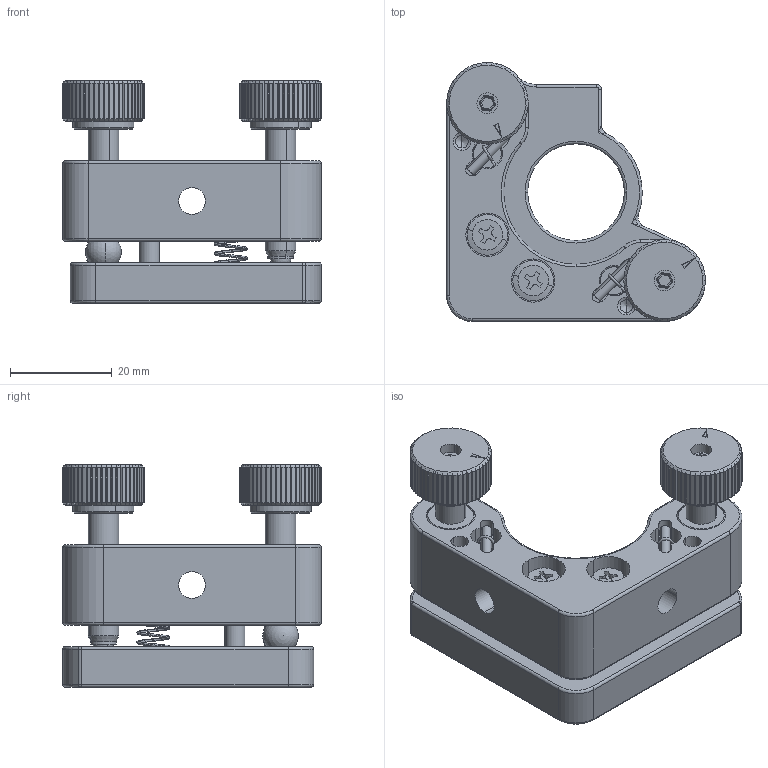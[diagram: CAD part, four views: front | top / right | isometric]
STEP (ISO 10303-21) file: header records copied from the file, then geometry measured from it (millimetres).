
FILE_DESCRIPTION (( 'STEP AP203' ), '1' );
FILE_NAME ('M-TNO-08L-HOX.STEP', '2020-07-09T01:58:12', ( '匠星' ), ( '' ), 'SwSTEP 2.0', 'SolidWorks 2019', '' );
FILE_SCHEMA (( 'CONFIG_CONTROL_DESIGN' ));
Length unit declared in the file: millimetre
Products named in the file (2): M-TNO-08L-HOX
Bounding box: 50.8 x 50.8 x 43.74 mm (x, y, z)
Surface area: 17297.2 mm2 (no closed solid volume)
Topology: 0 solids, 20 shells, 974 faces, 2468 edges, 1555 vertices
Faces by surface type: cylinder 412, plane 386, torus 82, cone 60, sphere 22, bspline 12
Entity records: 34672 total; most frequent: CARTESIAN_POINT 11646, ORIENTED_EDGE 4848, DIRECTION 4765, EDGE_CURVE 2427, AXIS2_PLACEMENT_3D 1901, VERTEX_POINT 1548, EDGE_LOOP 1059, ADVANCED_FACE 974
